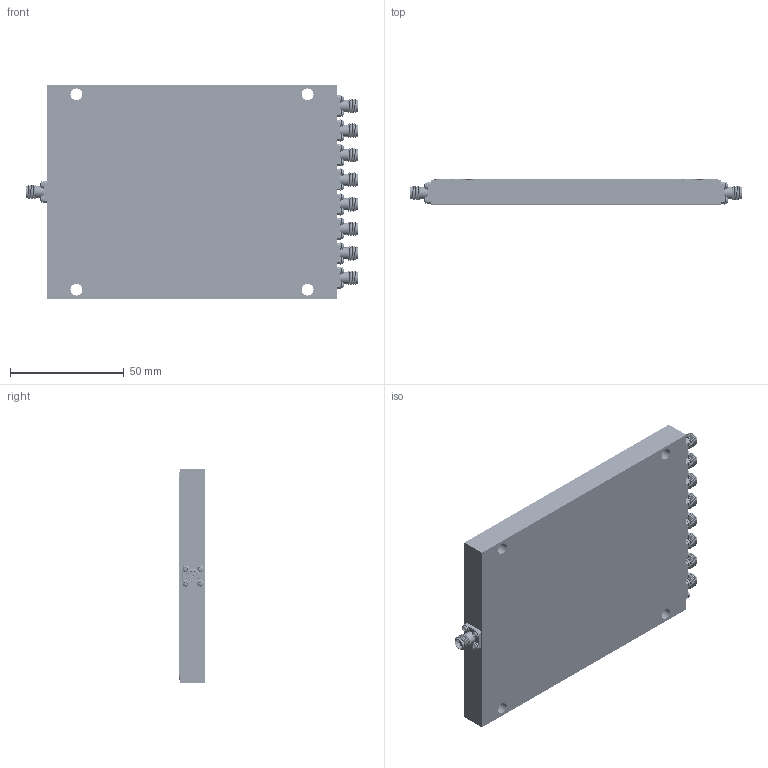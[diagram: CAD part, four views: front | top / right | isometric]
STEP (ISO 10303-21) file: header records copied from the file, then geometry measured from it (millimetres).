
FILE_DESCRIPTION (( 'STEP AP214' ), '1' );
FILE_NAME ('APD-8-1G6G-292FF.STEP', '2026-04-30T14:43:27', ( '' ), ( '' ), 'SwSTEP 2.0', 'SolidWorks 2025', '' );
FILE_SCHEMA (( 'AUTOMOTIVE_DESIGN' ));
Length unit declared in the file: millimetre
Products named in the file (1): APD-8-1G6G-292FF
Bounding box: 145.97 x 11.13 x 94.01 mm (x, y, z)
Volume: 134749.6 mm3; surface area: 82339.4 mm2
Topology: 84 solids, 84 shells, 3833 faces, 10850 edges, 7448 vertices
Faces by surface type: cylinder 1508, plane 1211, torus 558, cone 466, sphere 72, bspline 18
Entity records: 174788 total; most frequent: CARTESIAN_POINT 41498, ORIENTED_EDGE 21628, DIRECTION 20514, EDGE_CURVE 10814, AXIS2_PLACEMENT_3D 8121, VERTEX_POINT 7448, EDGE_LOOP 4398, CIRCLE 4305
